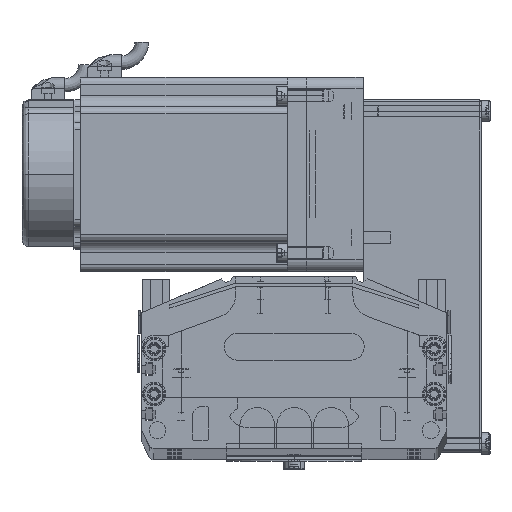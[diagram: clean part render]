
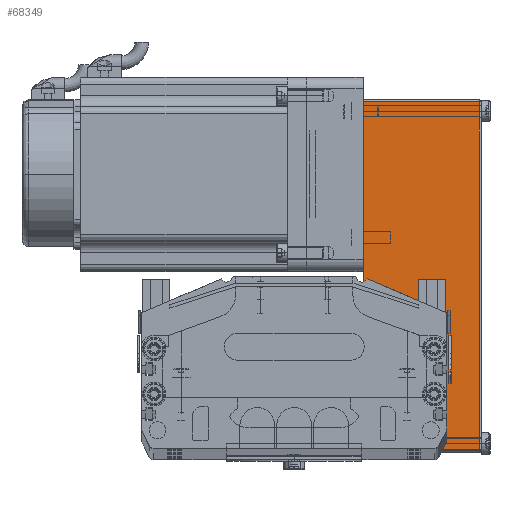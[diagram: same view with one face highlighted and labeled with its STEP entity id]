
A CAD part, top view. The second image highlights one B-rep face of the part: STEP entity #68349.
In plain terms, the highlighted planar face has unit normal (0, 0, 1) as drawn and (0, -1, 0) by its records, which use the part's own axes.
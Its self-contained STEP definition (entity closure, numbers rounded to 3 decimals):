
#58235 = VERTEX_POINT ( 'NONE', #82550 ) ;
#58600 = EDGE_CURVE ( 'NONE', #58863, #58235, #82962, .T. ) ;
#58863 = VERTEX_POINT ( 'NONE', #83452 ) ;
#61450 = LINE ( 'NONE', #61536, #61539 ) ;
#61536 = CARTESIAN_POINT ( 'NONE',  ( -123.2, -40., 52.5 ) ) ;
#61539 = VECTOR ( 'NONE', #61589, 1000. ) ;
#61589 = DIRECTION ( 'NONE',  ( 0., 0., -1. ) ) ;
#61735 = CARTESIAN_POINT ( 'NONE',  ( 31., -40., 51.5 ) ) ;
#61853 = CARTESIAN_POINT ( 'NONE',  ( 31., -40., 52.5 ) ) ;
#61871 = DIRECTION ( 'NONE',  ( -1., 0., 0. ) ) ;
#61872 = DIRECTION ( 'NONE',  ( 0., 1., 0. ) ) ;
#61887 = LINE ( 'NONE', #61853, #62111 ) ;
#61889 = PLANE ( 'NONE',  #61894 ) ;
#61894 = AXIS2_PLACEMENT_3D ( 'NONE', #61940, #61872, #61871 ) ;
#61940 = CARTESIAN_POINT ( 'NONE',  ( 32., -40., 52.5 ) ) ;
#61944 = DIRECTION ( 'NONE',  ( -1., 0., 0. ) ) ;
#61946 = CARTESIAN_POINT ( 'NONE',  ( -123.2, -40., 51.5 ) ) ;
#61964 = VECTOR ( 'NONE', #61944, 1000. ) ;
#61966 = CARTESIAN_POINT ( 'NONE',  ( 32., -40., 51.5 ) ) ;
#61971 = LINE ( 'NONE', #61966, #61964 ) ;
#62046 = FACE_OUTER_BOUND ( 'NONE', #68178, .T. ) ;
#62110 = DIRECTION ( 'NONE',  ( 0., 0., 1. ) ) ;
#62111 = VECTOR ( 'NONE', #62110, 1000. ) ;
#68178 = EDGE_LOOP ( 'NONE', ( #68328, #68536, #68433, #68353 ) ) ;
#68179 = EDGE_CURVE ( 'NONE', #68332, #58863, #61450, .T. ) ;
#68328 = ORIENTED_EDGE ( 'NONE', *, *, #58600, .T. ) ;
#68329 = VERTEX_POINT ( 'NONE', #61735 ) ;
#68330 = EDGE_CURVE ( 'NONE', #68329, #68332, #61971, .T. ) ;
#68332 = VERTEX_POINT ( 'NONE', #61946 ) ;
#68349 = ADVANCED_FACE ( 'NONE', ( #62046 ), #61889, .F. ) ;
#68353 = ORIENTED_EDGE ( 'NONE', *, *, #68179, .T. ) ;
#68433 = ORIENTED_EDGE ( 'NONE', *, *, #68330, .T. ) ;
#68434 = EDGE_CURVE ( 'NONE', #58235, #68329, #61887, .T. ) ;
#68536 = ORIENTED_EDGE ( 'NONE', *, *, #68434, .T. ) ;
#82550 = CARTESIAN_POINT ( 'NONE',  ( 31., -40., 0. ) ) ;
#82961 = CARTESIAN_POINT ( 'NONE',  ( 32., -40., 0. ) ) ;
#82962 = LINE ( 'NONE', #82961, #83088 ) ;
#83087 = DIRECTION ( 'NONE',  ( 1., 0., 0. ) ) ;
#83088 = VECTOR ( 'NONE', #83087, 1000. ) ;
#83452 = CARTESIAN_POINT ( 'NONE',  ( -123.2, -40., 0. ) ) ;
